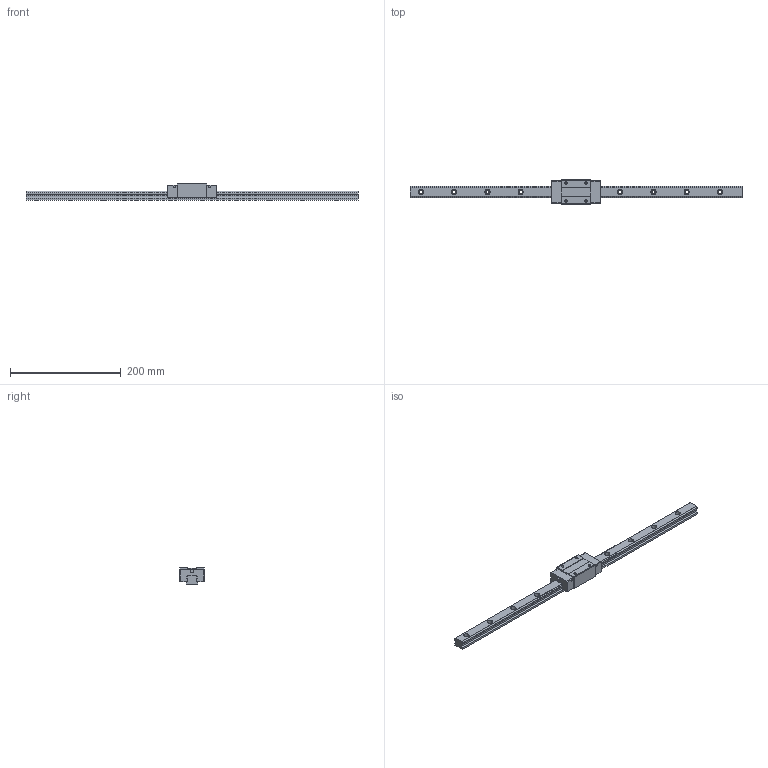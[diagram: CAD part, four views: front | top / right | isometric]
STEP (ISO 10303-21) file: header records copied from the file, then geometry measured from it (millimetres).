
FILE_DESCRIPTION (( 'STEP AP203' ), '1' );
FILE_NAME ('TRH20VN-WW.STEP', '2024-05-23T02:52:57', ( '' ), ( '' ), 'SwSTEP 2.0', 'SolidWorks 2022', '' );
FILE_SCHEMA (( 'CONFIG_CONTROL_DESIGN' ));
Length unit declared in the file: millimetre
Products named in the file (1): TRH20VN-WW
Bounding box: 600 x 44 x 30 mm (x, y, z)
Volume: 240131.4 mm3; surface area: 66112.7 mm2
Topology: 2 solids, 2 shells, 196 faces, 512 edges, 332 vertices
Faces by surface type: cylinder 96, plane 84, cone 16
Entity records: 6127 total; most frequent: DIRECTION 1098, CARTESIAN_POINT 1033, ORIENTED_EDGE 1008, EDGE_CURVE 504, AXIS2_PLACEMENT_3D 397, VERTEX_POINT 332, VECTOR 304, LINE 304
